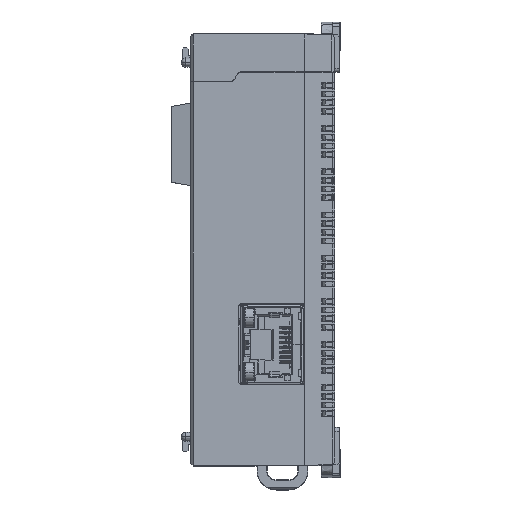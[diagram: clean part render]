
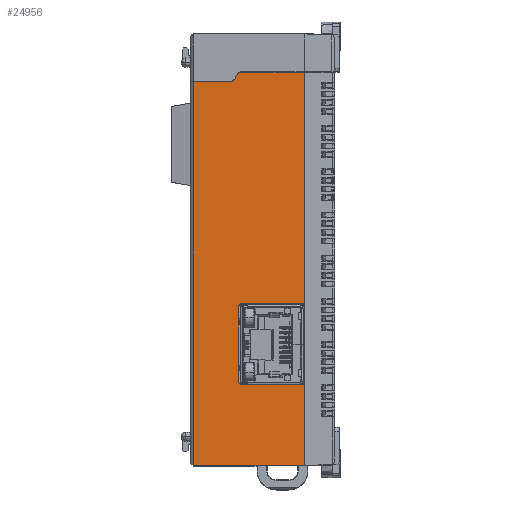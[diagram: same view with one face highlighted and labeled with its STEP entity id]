
A CAD part, top view. The second image highlights one B-rep face of the part: STEP entity #24956.
In plain terms, the highlighted planar face has unit normal (0, 0, 1).
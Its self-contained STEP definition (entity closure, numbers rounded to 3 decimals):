
#1267 = CARTESIAN_POINT ( 'NONE',  ( -15.432, 36., 30. ) ) ;
#1782 = CIRCLE ( 'NONE', #51993, 1. ) ;
#4698 = EDGE_CURVE ( 'NONE', #61832, #121163, #8751, .T. ) ;
#8751 = LINE ( 'NONE', #34844, #132782 ) ;
#9179 = CARTESIAN_POINT ( 'NONE',  ( -15.432, 35., 30. ) ) ;
#10276 = CARTESIAN_POINT ( 'NONE',  ( 0., 45., 30. ) ) ;
#11004 = DIRECTION ( 'NONE',  ( 0., -1., 0. ) ) ;
#13872 = VECTOR ( 'NONE', #63031, 1000. ) ;
#17996 = PLANE ( 'NONE',  #51782 ) ;
#18196 = AXIS2_PLACEMENT_3D ( 'NONE', #125272, #47426, #138303 ) ;
#18353 = EDGE_CURVE ( 'NONE', #61832, #34763, #1782, .T. ) ;
#21086 = CARTESIAN_POINT ( 'NONE',  ( -23.2, -45., 30. ) ) ;
#21776 = CARTESIAN_POINT ( 'NONE',  ( 0., -28.2, 30. ) ) ;
#24062 = ORIENTED_EDGE ( 'NONE', *, *, #42473, .F. ) ;
#24389 = CARTESIAN_POINT ( 'NONE',  ( 0., -11.2, 30. ) ) ;
#24956 = ADVANCED_FACE ( 'NONE', ( #65612 ), #17996, .T. ) ;
#28684 = DIRECTION ( 'NONE',  ( 0., 0., -1. ) ) ;
#29569 = LINE ( 'NONE', #10276, #123266 ) ;
#31132 = DIRECTION ( 'NONE',  ( 0., 0., 1. ) ) ;
#34679 = CARTESIAN_POINT ( 'NONE',  ( -14.855, 35., 30. ) ) ;
#34763 = VERTEX_POINT ( 'NONE', #9179 ) ;
#34844 = CARTESIAN_POINT ( 'NONE',  ( -13.7, 37., 30. ) ) ;
#35444 = AXIS2_PLACEMENT_3D ( 'NONE', #67988, #28684, #42363 ) ;
#36938 = ORIENTED_EDGE ( 'NONE', *, *, #4698, .F. ) ;
#39166 = VECTOR ( 'NONE', #11004, 1000. ) ;
#40229 = VECTOR ( 'NONE', #51110, 1000. ) ;
#42363 = DIRECTION ( 'NONE',  ( 0., -1., 0. ) ) ;
#42410 = DIRECTION ( 'NONE',  ( 1., 0., 0. ) ) ;
#42473 = EDGE_CURVE ( 'NONE', #113886, #99603, #91956, .T. ) ;
#43376 = EDGE_LOOP ( 'NONE', ( #87085, #121379, #62408, #69963, #36938, #96819, #97668, #143920, #55359, #162380, #24062, #108201, #129812, #80414 ) ) ;
#44673 = EDGE_CURVE ( 'NONE', #138034, #105962, #129927, .T. ) ;
#47426 = DIRECTION ( 'NONE',  ( 0., 0., -1. ) ) ;
#48445 = CARTESIAN_POINT ( 'NONE',  ( -14.566, 35.5, 30. ) ) ;
#49654 = VERTEX_POINT ( 'NONE', #145722 ) ;
#51110 = DIRECTION ( 'NONE',  ( 1., 0., 0. ) ) ;
#51782 = AXIS2_PLACEMENT_3D ( 'NONE', #148227, #31132, #122681 ) ;
#51993 = AXIS2_PLACEMENT_3D ( 'NONE', #1267, #132640, #92361 ) ;
#54180 = VECTOR ( 'NONE', #155900, 1000. ) ;
#55359 = ORIENTED_EDGE ( 'NONE', *, *, #80606, .T. ) ;
#56480 = CARTESIAN_POINT ( 'NONE',  ( -12.95, -28.2, 30. ) ) ;
#57246 = DIRECTION ( 'NONE',  ( 0., -1., 0. ) ) ;
#58252 = EDGE_CURVE ( 'NONE', #113886, #49654, #87229, .T. ) ;
#58313 = AXIS2_PLACEMENT_3D ( 'NONE', #144835, #132866, #157893 ) ;
#61832 = VERTEX_POINT ( 'NONE', #48445 ) ;
#62408 = ORIENTED_EDGE ( 'NONE', *, *, #70453, .F. ) ;
#62469 = CARTESIAN_POINT ( 'NONE',  ( 0., -11.2, 30. ) ) ;
#62624 = CARTESIAN_POINT ( 'NONE',  ( -23.2, 35., 30. ) ) ;
#62695 = CARTESIAN_POINT ( 'NONE',  ( 0., 37., 30. ) ) ;
#62879 = CARTESIAN_POINT ( 'NONE',  ( 0., 45., 30. ) ) ;
#63031 = DIRECTION ( 'NONE',  ( -1., 0., 0. ) ) ;
#64150 = CARTESIAN_POINT ( 'NONE',  ( 0., -45., 30. ) ) ;
#65612 = FACE_OUTER_BOUND ( 'NONE', #43376, .T. ) ;
#67317 = EDGE_CURVE ( 'NONE', #114126, #71642, #134675, .T. ) ;
#67988 = CARTESIAN_POINT ( 'NONE',  ( -12.95, -27.45, 30. ) ) ;
#69963 = ORIENTED_EDGE ( 'NONE', *, *, #159686, .T. ) ;
#70453 = EDGE_CURVE ( 'NONE', #76552, #98336, #87079, .T. ) ;
#70511 = VERTEX_POINT ( 'NONE', #64150 ) ;
#71642 = VERTEX_POINT ( 'NONE', #21086 ) ;
#73583 = EDGE_CURVE ( 'NONE', #98336, #138034, #29569, .T. ) ;
#76552 = VERTEX_POINT ( 'NONE', #119255 ) ;
#80048 = EDGE_CURVE ( 'NONE', #89670, #105962, #113021, .T. ) ;
#80414 = ORIENTED_EDGE ( 'NONE', *, *, #80048, .T. ) ;
#80606 = EDGE_CURVE ( 'NONE', #71642, #70511, #126251, .T. ) ;
#87079 = LINE ( 'NONE', #101150, #40229 ) ;
#87085 = ORIENTED_EDGE ( 'NONE', *, *, #44673, .F. ) ;
#87229 = CIRCLE ( 'NONE', #35444, 0.75 ) ;
#89670 = VERTEX_POINT ( 'NONE', #154997 ) ;
#91956 = LINE ( 'NONE', #160637, #110176 ) ;
#92361 = DIRECTION ( 'NONE',  ( 0., -1., 0. ) ) ;
#93076 = CARTESIAN_POINT ( 'NONE',  ( -12.95, -11.2, 30. ) ) ;
#94263 = VECTOR ( 'NONE', #150671, 1000. ) ;
#95895 = CARTESIAN_POINT ( 'NONE',  ( -23.2, -45., 30. ) ) ;
#96819 = ORIENTED_EDGE ( 'NONE', *, *, #18353, .T. ) ;
#97668 = ORIENTED_EDGE ( 'NONE', *, *, #164911, .F. ) ;
#98336 = VERTEX_POINT ( 'NONE', #62695 ) ;
#98906 = CIRCLE ( 'NONE', #58313, 1. ) ;
#99603 = VERTEX_POINT ( 'NONE', #21776 ) ;
#101150 = CARTESIAN_POINT ( 'NONE',  ( 0., 37., 30. ) ) ;
#105962 = VERTEX_POINT ( 'NONE', #93076 ) ;
#108201 = ORIENTED_EDGE ( 'NONE', *, *, #58252, .T. ) ;
#110176 = VECTOR ( 'NONE', #42410, 1000. ) ;
#113021 = CIRCLE ( 'NONE', #18196, 0.75 ) ;
#113886 = VERTEX_POINT ( 'NONE', #56480 ) ;
#114126 = VERTEX_POINT ( 'NONE', #62624 ) ;
#119255 = CARTESIAN_POINT ( 'NONE',  ( -13.123, 37., 30. ) ) ;
#119518 = EDGE_CURVE ( 'NONE', #99603, #70511, #163286, .T. ) ;
#120347 = CARTESIAN_POINT ( 'NONE',  ( -13.989, 36.5, 30. ) ) ;
#121163 = VERTEX_POINT ( 'NONE', #120347 ) ;
#121379 = ORIENTED_EDGE ( 'NONE', *, *, #73583, .F. ) ;
#122681 = DIRECTION ( 'NONE',  ( 0., -1., 0. ) ) ;
#123266 = VECTOR ( 'NONE', #165506, 1000. ) ;
#125272 = CARTESIAN_POINT ( 'NONE',  ( -12.95, -11.95, 30. ) ) ;
#126251 = LINE ( 'NONE', #159357, #144507 ) ;
#129812 = ORIENTED_EDGE ( 'NONE', *, *, #162304, .F. ) ;
#129927 = LINE ( 'NONE', #62469, #13872 ) ;
#130987 = DIRECTION ( 'NONE',  ( 1., 0., 0. ) ) ;
#132640 = DIRECTION ( 'NONE',  ( 0., 0., -1. ) ) ;
#132782 = VECTOR ( 'NONE', #151917, 1000. ) ;
#132866 = DIRECTION ( 'NONE',  ( 0., 0., 1. ) ) ;
#134675 = LINE ( 'NONE', #95895, #167233 ) ;
#138034 = VERTEX_POINT ( 'NONE', #24389 ) ;
#138303 = DIRECTION ( 'NONE',  ( 0., -1., 0. ) ) ;
#141017 = LINE ( 'NONE', #34679, #94263 ) ;
#143920 = ORIENTED_EDGE ( 'NONE', *, *, #67317, .T. ) ;
#144507 = VECTOR ( 'NONE', #130987, 1000. ) ;
#144835 = CARTESIAN_POINT ( 'NONE',  ( -13.123, 36., 30. ) ) ;
#145722 = CARTESIAN_POINT ( 'NONE',  ( -13.7, -27.45, 30. ) ) ;
#148227 = CARTESIAN_POINT ( 'NONE',  ( -23.7, 45., 30. ) ) ;
#150671 = DIRECTION ( 'NONE',  ( 1., 0., 0. ) ) ;
#151917 = DIRECTION ( 'NONE',  ( 0.5, 0.866, 0. ) ) ;
#154997 = CARTESIAN_POINT ( 'NONE',  ( -13.7, -11.95, 30. ) ) ;
#155900 = DIRECTION ( 'NONE',  ( 0., -1., 0. ) ) ;
#157052 = CARTESIAN_POINT ( 'NONE',  ( -13.7, -11.2, 30. ) ) ;
#157870 = LINE ( 'NONE', #157052, #54180 ) ;
#157893 = DIRECTION ( 'NONE',  ( 0., -1., 0. ) ) ;
#159357 = CARTESIAN_POINT ( 'NONE',  ( -23.7, -45., 30. ) ) ;
#159686 = EDGE_CURVE ( 'NONE', #76552, #121163, #98906, .T. ) ;
#160637 = CARTESIAN_POINT ( 'NONE',  ( -13.7, -28.2, 30. ) ) ;
#162304 = EDGE_CURVE ( 'NONE', #89670, #49654, #157870, .T. ) ;
#162380 = ORIENTED_EDGE ( 'NONE', *, *, #119518, .F. ) ;
#163286 = LINE ( 'NONE', #62879, #39166 ) ;
#164911 = EDGE_CURVE ( 'NONE', #114126, #34763, #141017, .T. ) ;
#165506 = DIRECTION ( 'NONE',  ( 0., -1., 0. ) ) ;
#167233 = VECTOR ( 'NONE', #57246, 1000. ) ;
